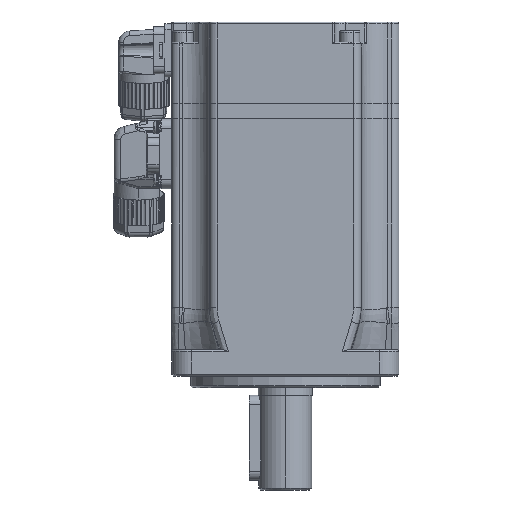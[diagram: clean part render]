
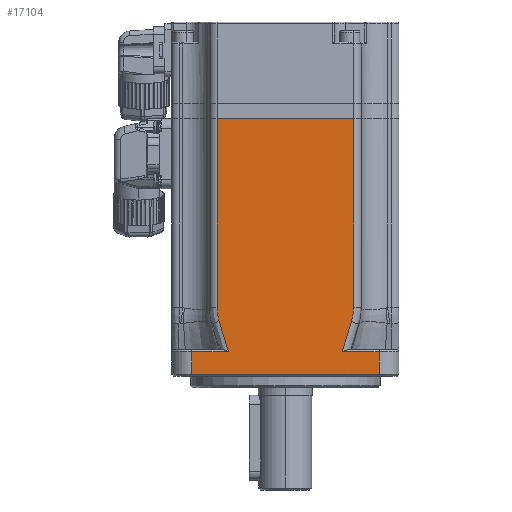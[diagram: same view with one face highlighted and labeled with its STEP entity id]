
A CAD part, front view. The second image highlights one B-rep face of the part: STEP entity #17104.
In plain terms, the highlighted planar face has unit normal (0, -1, 0).
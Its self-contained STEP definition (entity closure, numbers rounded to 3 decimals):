
#2484 = CARTESIAN_POINT ( 'NONE',  ( -17.181, -30., -10.933 ) ) ;
#2764 = DIRECTION ( 'NONE',  ( 0., 0., -1. ) ) ;
#4072 = CARTESIAN_POINT ( 'NONE',  ( -30., -30., -18. ) ) ;
#4315 = EDGE_CURVE ( 'NONE', #25177, #81137, #111082, .T. ) ;
#6615 = EDGE_CURVE ( 'NONE', #32556, #62006, #104591, .T. ) ;
#7465 = CARTESIAN_POINT ( 'NONE',  ( 15.299, -30., -17.103 ) ) ;
#12588 = DIRECTION ( 'NONE',  ( 1., 0., 0. ) ) ;
#12858 = CARTESIAN_POINT ( 'NONE',  ( 17.909, -30., -7.866 ) ) ;
#12875 = LINE ( 'NONE', #119585, #101433 ) ;
#13459 = CARTESIAN_POINT ( 'NONE',  ( 17.442, -30., -10.068 ) ) ;
#13518 = CARTESIAN_POINT ( 'NONE',  ( 17.442, -30., -10.068 ) ) ;
#14534 = CARTESIAN_POINT ( 'NONE',  ( -18., -30., 43.5 ) ) ;
#15654 = ORIENTED_EDGE ( 'NONE', *, *, #41186, .F. ) ;
#16564 = ORIENTED_EDGE ( 'NONE', *, *, #123352, .T. ) ;
#16794 = PLANE ( 'NONE',  #57144 ) ;
#17104 = ADVANCED_FACE ( 'NONE', ( #95666 ), #16794, .T. ) ;
#17723 = ORIENTED_EDGE ( 'NONE', *, *, #82245, .T. ) ;
#24736 = CARTESIAN_POINT ( 'NONE',  ( 24.75, -30., -24. ) ) ;
#25177 = VERTEX_POINT ( 'NONE', #85813 ) ;
#28883 = VERTEX_POINT ( 'NONE', #93988 ) ;
#31961 = LINE ( 'NONE', #62778, #72400 ) ;
#32556 = VERTEX_POINT ( 'NONE', #40177 ) ;
#32624 = CARTESIAN_POINT ( 'NONE',  ( 18., -30., -6.287 ) ) ;
#33300 = CARTESIAN_POINT ( 'NONE',  ( -17.442, -30., -10.068 ) ) ;
#35332 = VECTOR ( 'NONE', #12588, 1000. ) ;
#35784 = EDGE_CURVE ( 'NONE', #44598, #86679, #127490, .T. ) ;
#37198 = DIRECTION ( 'NONE',  ( 0., -1., 0. ) ) ;
#37697 = CARTESIAN_POINT ( 'NONE',  ( 17.442, -30., -10.068 ) ) ;
#40055 = EDGE_CURVE ( 'NONE', #80832, #28883, #50972, .T. ) ;
#40177 = CARTESIAN_POINT ( 'NONE',  ( -18., -30., 43.5 ) ) ;
#41186 = EDGE_CURVE ( 'NONE', #95637, #28883, #12875, .T. ) ;
#41684 = VECTOR ( 'NONE', #52081, 1000. ) ;
#42600 = CARTESIAN_POINT ( 'NONE',  ( -15.846, -30., -15.319 ) ) ;
#43173 = CARTESIAN_POINT ( 'NONE',  ( -17.911, -30., -7.862 ) ) ;
#43616 = ORIENTED_EDGE ( 'NONE', *, *, #40055, .T. ) ;
#44446 = VECTOR ( 'NONE', #71122, 1000. ) ;
#44598 = VERTEX_POINT ( 'NONE', #120873 ) ;
#45756 = DIRECTION ( 'NONE',  ( 1., 0., 0. ) ) ;
#46894 = CARTESIAN_POINT ( 'NONE',  ( -18., -30., -6.287 ) ) ;
#47041 = ORIENTED_EDGE ( 'NONE', *, *, #4315, .T. ) ;
#47955 = EDGE_CURVE ( 'NONE', #87420, #90519, #81002, .T. ) ;
#50430 = B_SPLINE_CURVE_WITH_KNOTS ( 'NONE', 3,
 ( #86315, #7465, #67222, #125766, #126432, #37697 ),
 .UNSPECIFIED., .F., .F.,
 ( 4, 1, 1, 4 ),
 ( 0., 0.333, 0.667, 1. ),
 .UNSPECIFIED. ) ;
#50972 = B_SPLINE_CURVE_WITH_KNOTS ( 'NONE', 3,
 ( #13518, #72659, #61514, #101648, #12858, #93672, #52947, #51690, #32624 ),
 .UNSPECIFIED., .F., .F.,
 ( 4, 1, 1, 1, 1, 1, 4 ),
 ( 0., 0.167, 0.333, 0.5, 0.667, 0.833, 1. ),
 .UNSPECIFIED. ) ;
#51690 = CARTESIAN_POINT ( 'NONE',  ( 18., -30., -6.428 ) ) ;
#51694 = DIRECTION ( 'NONE',  ( 0., 0., 1. ) ) ;
#52081 = DIRECTION ( 'NONE',  ( -1., 0., 0. ) ) ;
#52947 = CARTESIAN_POINT ( 'NONE',  ( 17.995, -30., -6.735 ) ) ;
#53477 = CARTESIAN_POINT ( 'NONE',  ( 24.75, -30., -18. ) ) ;
#53649 = CARTESIAN_POINT ( 'NONE',  ( -24.75, -30., -18. ) ) ;
#57144 = AXIS2_PLACEMENT_3D ( 'NONE', #117991, #37198, #108145 ) ;
#58311 = VECTOR ( 'NONE', #45756, 1000. ) ;
#58671 = CARTESIAN_POINT ( 'NONE',  ( -24.75, -30., -24.5 ) ) ;
#59994 = CARTESIAN_POINT ( 'NONE',  ( -15.024, -30., -18. ) ) ;
#61514 = CARTESIAN_POINT ( 'NONE',  ( 17.664, -30., -9.265 ) ) ;
#62006 = VERTEX_POINT ( 'NONE', #73418 ) ;
#62778 = CARTESIAN_POINT ( 'NONE',  ( -30., -30., -18. ) ) ;
#63474 = CARTESIAN_POINT ( 'NONE',  ( -17.567, -30., -9.637 ) ) ;
#63662 = EDGE_CURVE ( 'NONE', #86679, #97321, #31961, .T. ) ;
#64334 = CARTESIAN_POINT ( 'NONE',  ( -24.75, -30., -24. ) ) ;
#67222 = CARTESIAN_POINT ( 'NONE',  ( 15.846, -30., -15.318 ) ) ;
#67346 = ORIENTED_EDGE ( 'NONE', *, *, #122283, .T. ) ;
#71122 = DIRECTION ( 'NONE',  ( 0., 0., -1. ) ) ;
#72400 = VECTOR ( 'NONE', #112128, 1000. ) ;
#72659 = CARTESIAN_POINT ( 'NONE',  ( 17.525, -30., -9.794 ) ) ;
#72697 = CARTESIAN_POINT ( 'NONE',  ( -18., -30., -6.572 ) ) ;
#72761 = CARTESIAN_POINT ( 'NONE',  ( -17.442, -30., -10.068 ) ) ;
#73418 = CARTESIAN_POINT ( 'NONE',  ( -18., -30., -6.287 ) ) ;
#76525 = EDGE_CURVE ( 'NONE', #97321, #80832, #50430, .T. ) ;
#76560 = LINE ( 'NONE', #4072, #41684 ) ;
#77812 = ORIENTED_EDGE ( 'NONE', *, *, #63662, .T. ) ;
#78760 = ORIENTED_EDGE ( 'NONE', *, *, #76525, .T. ) ;
#80832 = VERTEX_POINT ( 'NONE', #13459 ) ;
#81002 = LINE ( 'NONE', #58671, #44446 ) ;
#81137 = VERTEX_POINT ( 'NONE', #59994 ) ;
#82245 = EDGE_CURVE ( 'NONE', #62006, #25177, #92573, .T. ) ;
#82575 = EDGE_CURVE ( 'NONE', #32556, #95637, #91463, .T. ) ;
#82641 = CARTESIAN_POINT ( 'NONE',  ( -15.299, -30., -17.103 ) ) ;
#85622 = CARTESIAN_POINT ( 'NONE',  ( -17.694, -30., -9.12 ) ) ;
#85813 = CARTESIAN_POINT ( 'NONE',  ( -17.442, -30., -10.068 ) ) ;
#86315 = CARTESIAN_POINT ( 'NONE',  ( 15.024, -30., -18. ) ) ;
#86679 = VERTEX_POINT ( 'NONE', #53477 ) ;
#86919 = CARTESIAN_POINT ( 'NONE',  ( 15.024, -30., -18. ) ) ;
#87420 = VERTEX_POINT ( 'NONE', #53649 ) ;
#88315 = CARTESIAN_POINT ( 'NONE',  ( 18., -30., 43.5 ) ) ;
#89341 = DIRECTION ( 'NONE',  ( 0., 0., -1. ) ) ;
#90519 = VERTEX_POINT ( 'NONE', #64334 ) ;
#91463 = LINE ( 'NONE', #102633, #35332 ) ;
#91741 = CARTESIAN_POINT ( 'NONE',  ( 24.75, -30., -24.5 ) ) ;
#92573 = B_SPLINE_CURVE_WITH_KNOTS ( 'NONE', 3,
 ( #46894, #72697, #127064, #43173, #106037, #85622, #63474, #123329, #33300 ),
 .UNSPECIFIED., .F., .F.,
 ( 4, 1, 1, 1, 1, 1, 4 ),
 ( 0., 0.167, 0.333, 0.5, 0.667, 0.833, 1. ),
 .UNSPECIFIED. ) ;
#93672 = CARTESIAN_POINT ( 'NONE',  ( 17.967, -30., -7.266 ) ) ;
#93770 = CARTESIAN_POINT ( 'NONE',  ( -16.654, -30., -12.673 ) ) ;
#93988 = CARTESIAN_POINT ( 'NONE',  ( 18., -30., -6.287 ) ) ;
#95637 = VERTEX_POINT ( 'NONE', #88315 ) ;
#95666 = FACE_OUTER_BOUND ( 'NONE', #119391, .T. ) ;
#97075 = ORIENTED_EDGE ( 'NONE', *, *, #35784, .T. ) ;
#97321 = VERTEX_POINT ( 'NONE', #86919 ) ;
#101433 = VECTOR ( 'NONE', #89341, 1000. ) ;
#101648 = CARTESIAN_POINT ( 'NONE',  ( 17.812, -30., -8.533 ) ) ;
#101893 = ORIENTED_EDGE ( 'NONE', *, *, #47955, .T. ) ;
#102633 = CARTESIAN_POINT ( 'NONE',  ( 18., -30., 43.5 ) ) ;
#103639 = LINE ( 'NONE', #24736, #58311 ) ;
#104420 = ORIENTED_EDGE ( 'NONE', *, *, #6615, .T. ) ;
#104591 = LINE ( 'NONE', #14534, #104863 ) ;
#104863 = VECTOR ( 'NONE', #2764, 1000. ) ;
#106037 = CARTESIAN_POINT ( 'NONE',  ( -17.812, -30., -8.529 ) ) ;
#108145 = DIRECTION ( 'NONE',  ( 0., 0., -1. ) ) ;
#111082 = B_SPLINE_CURVE_WITH_KNOTS ( 'NONE', 3,
 ( #72761, #2484, #93770, #42600, #82641, #112872 ),
 .UNSPECIFIED., .F., .F.,
 ( 4, 1, 1, 4 ),
 ( 0., 0.333, 0.667, 1. ),
 .UNSPECIFIED. ) ;
#112128 = DIRECTION ( 'NONE',  ( -1., 0., 0. ) ) ;
#112872 = CARTESIAN_POINT ( 'NONE',  ( -15.024, -30., -18. ) ) ;
#116214 = ORIENTED_EDGE ( 'NONE', *, *, #82575, .F. ) ;
#117405 = VECTOR ( 'NONE', #51694, 1000. ) ;
#117991 = CARTESIAN_POINT ( 'NONE',  ( -30., -30., -24.5 ) ) ;
#119391 = EDGE_LOOP ( 'NONE', ( #97075, #77812, #78760, #43616, #15654, #116214, #104420, #17723, #47041, #67346, #101893, #16564 ) ) ;
#119585 = CARTESIAN_POINT ( 'NONE',  ( 18., -30., 43.5 ) ) ;
#120873 = CARTESIAN_POINT ( 'NONE',  ( 24.75, -30., -24. ) ) ;
#122283 = EDGE_CURVE ( 'NONE', #81137, #87420, #76560, .T. ) ;
#123329 = CARTESIAN_POINT ( 'NONE',  ( -17.483, -30., -9.932 ) ) ;
#123352 = EDGE_CURVE ( 'NONE', #90519, #44598, #103639, .T. ) ;
#125766 = CARTESIAN_POINT ( 'NONE',  ( 16.654, -30., -12.673 ) ) ;
#126432 = CARTESIAN_POINT ( 'NONE',  ( 17.181, -30., -10.933 ) ) ;
#127064 = CARTESIAN_POINT ( 'NONE',  ( -17.981, -30., -7.119 ) ) ;
#127490 = LINE ( 'NONE', #91741, #117405 ) ;
